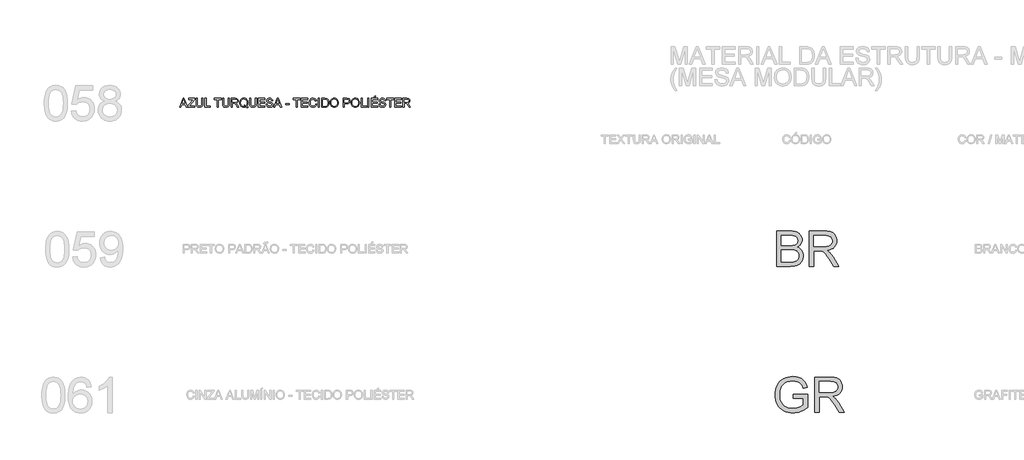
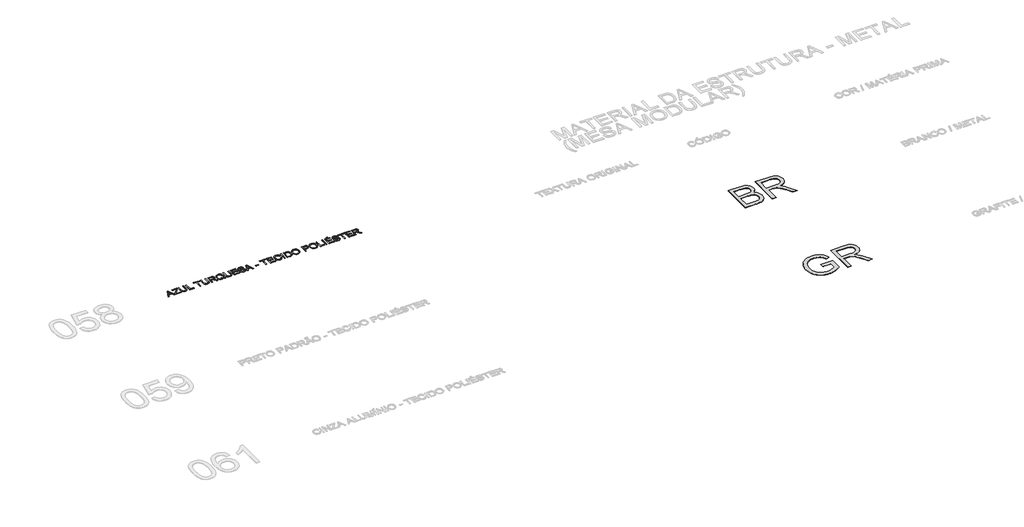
# One storey, part 46 of 67: 3 proxies.
"""IFC4 building model written with IfcOpenShell, lengths in millimetres."""

import ifcopenshell
import ifcopenshell.guid

model = None  # the IFC model being written
_history = None  # IfcOwnerHistory: only IFC2X3 demands one
_inside = {}  # id of a spatial element -> (the spatial element, [elements in it])
_under = {}  # id of a project, library or spatial element -> (it, [spatial elements below it])
_declared = {}  # id of a project -> (the project, [libraries it declares])
_typed = {}  # id of a type object -> (the type object, [elements of that type])
_made_of = {}  # id of a material, layer set ... -> (it, [elements and type objects made of it])


def new_model(schema):
    """Start an empty IFC model of exactly this schema.

    Asked for "IFC4X3", IfcOpenShell would pick the latest addendum, in which some entities
    have other attributes; the version numbers below select the first issue.
    IFC2X3 requires an IfcOwnerHistory on every rooted entity: one is made here for all.
    """
    global model, _history
    if schema == "IFC4X3":
        model = ifcopenshell.file(schema_version=(4, 3, 0, 0))
    else:
        model = ifcopenshell.file(schema=schema)
    _inside.clear()
    _under.clear()
    _declared.clear()
    _typed.clear()
    _made_of.clear()
    _history = None
    if model.schema == "IFC2X3":
        org = make("IfcOrganization", Name="unknown")
        user = make(
            "IfcPersonAndOrganization",
            ThePerson=make("IfcPerson", FamilyName="unknown"),
            TheOrganization=org,
        )
        app = make(
            "IfcApplication",
            ApplicationDeveloper=org,
            Version="unknown",
            ApplicationFullName="unknown",
            ApplicationIdentifier="unknown",
        )
        _history = make(
            "IfcOwnerHistory",
            OwningUser=user,
            OwningApplication=app,
            ChangeAction="ADDED",
            CreationDate=0,
        )
    return model


def make(cls, **values):
    """One entity of the class cls with the attributes given. An attribute that is None is left unset."""
    return model.create_entity(
        cls, **{name: value for name, value in values.items() if value is not None}
    )


def rooted(cls, **values):
    """An entity with a GlobalId (a new one), such as an element, a storey or a relation."""
    return make(cls, GlobalId=ifcopenshell.guid.new(), OwnerHistory=_history, **values)


def si_unit(unit_type, name, prefix=None):
    """IfcSIUnit, for example si_unit("LENGTHUNIT", "METRE", prefix="MILLI")."""
    return make("IfcSIUnit", UnitType=unit_type, Prefix=prefix, Name=name)


def assignment(units):
    """IfcUnitAssignment: the units of a project."""
    return None if units is None else make("IfcUnitAssignment", Units=units)


def point(xyz):
    """IfcCartesianPoint."""
    return None if xyz is None else make("IfcCartesianPoint", Coordinates=xyz)


def direction(xyz):
    """IfcDirection."""
    return None if xyz is None else make("IfcDirection", DirectionRatios=xyz)


def frame(location, z_axis=None, x_axis=None):
    """IfcAxis2Placement3D, a coordinate frame: its origin and axes. An axis left out is left unset."""
    return make(
        "IfcAxis2Placement3D",
        Location=point(location),
        Axis=direction(z_axis),
        RefDirection=direction(x_axis),
    )


def origin():
    """The frame at (0, 0, 0) with its axes left unset."""
    return frame((0.0, 0.0, 0.0))


def origin_with_axes():
    """The frame at (0, 0, 0) with the z axis (0, 0, 1) and the x axis (1, 0, 0) written out."""
    return frame((0.0, 0.0, 0.0), z_axis=(0.0, 0.0, 1.0), x_axis=(1.0, 0.0, 0.0))


def place(relative_to, where):
    """IfcLocalPlacement: puts the frame where relative to a parent placement (None: the world)."""
    return make(
        "IfcLocalPlacement", PlacementRelTo=relative_to, RelativePlacement=where
    )


def context(
    kind, dimensions, precision=None, world=None, true_north=None, identifier=None
):
    """IfcGeometricRepresentationContext, for example the 3D "Model" context."""
    return make(
        "IfcGeometricRepresentationContext",
        ContextIdentifier=identifier,
        ContextType=kind,
        CoordinateSpaceDimension=dimensions,
        Precision=precision,
        WorldCoordinateSystem=world,
        TrueNorth=true_north,
    )


def project(units=None, contexts=None):
    """IfcProject with its units and contexts."""
    return rooted(
        "IfcProject",
        Name="project",
        RepresentationContexts=contexts,
        UnitsInContext=assignment(units),
    )


def spatial(cls, under=None, at=None, **own):
    """A site, building, storey or space (cls), placed at a placement, below another one or the project."""
    s = rooted(cls, ObjectPlacement=at, **own)
    if under is not None:
        _under.setdefault(under.id(), (under, []))[1].append(s)
    return s


def polyline(points):
    """IfcPolyline through the points."""
    return make("IfcPolyline", Points=[point(p) for p in points])


def outline(outer, holes=None, kind="AREA"):
    """IfcArbitraryClosedProfileDef: a profile drawn as a closed curve; with holes, ...WithVoids."""
    if holes is None:
        return make("IfcArbitraryClosedProfileDef", ProfileType=kind, OuterCurve=outer)
    return make(
        "IfcArbitraryProfileDefWithVoids",
        ProfileType=kind,
        OuterCurve=outer,
        InnerCurves=holes,
    )


def extrude(swept, where, along, depth):
    """IfcExtrudedAreaSolid: the profile swept, set in the frame where, extruded along a direction by depth."""
    return make(
        "IfcExtrudedAreaSolid",
        SweptArea=swept,
        Position=where,
        ExtrudedDirection=direction(along),
        Depth=depth,
    )


def shape(context_of_items, identifier, shape_type, items):
    """IfcShapeRepresentation: the items that make up one representation, for example the "Body"."""
    return make(
        "IfcShapeRepresentation",
        ContextOfItems=context_of_items,
        RepresentationIdentifier=identifier,
        RepresentationType=shape_type,
        Items=items,
    )


def made_of(thing, what):
    """Note that an element or type object is made of a material, layer set ...; save() writes the relation."""
    if what is not None:
        _made_of.setdefault(what.id(), (what, []))[1].append(thing)
    return thing


def element(
    cls,
    number,
    at=None,
    inside=None,
    cuts=None,
    type_object=None,
    material=None,
    context=None,
    identifier="Body",
    shape_type=None,
    held_by="IfcProductDefinitionShape",
    body=None,
    shapes=None,
    **own,
):
    """One element of the class cls, such as IfcWall. Its Tag is "e" and its number.

    at: its placement. inside: the storey or other place that contains it. cuts: it is an
    opening in that element (IfcRelVoidsElement). A single representation is given by context,
    identifier, shape_type and body (its items); several are given by shapes. held_by: the class
    of the entity that holds the representations. save() writes the other relations.
    """
    e = rooted(cls, Tag="e%d" % number, ObjectPlacement=at, **own)
    if body is not None:
        shapes = [shape(context, identifier, shape_type, body)]
    if shapes is not None:
        e.Representation = make(held_by, Representations=shapes)
    if inside is not None:
        _inside.setdefault(inside.id(), (inside, []))[1].append(e)
    if cuts is not None:
        rooted(
            "IfcRelVoidsElement", RelatingBuildingElement=cuts, RelatedOpeningElement=e
        )
    if type_object is not None:
        _typed.setdefault(type_object.id(), (type_object, []))[1].append(e)
    return made_of(e, material)


def aggregate(whole, parts):
    """IfcRelAggregates: a whole, such as a stair, and the parts it consists of."""
    return rooted("IfcRelAggregates", RelatingObject=whole, RelatedObjects=parts)


def save(model, path):
    """Write the relations noted so far, then the file.

    IfcRelAggregates (storeys below a building ...), IfcRelContainedInSpatialStructure (elements
    in a storey), IfcRelDefinesByType, IfcRelAssociatesMaterial and IfcRelDeclares: one each for
    every whole, place, type object, material and project.
    """
    for whole, parts in _under.values():
        aggregate(whole, parts)
    for where, things in _inside.values():
        rooted(
            "IfcRelContainedInSpatialStructure",
            RelatedElements=things,
            RelatingStructure=where,
        )
    for kind, things in _typed.values():
        rooted("IfcRelDefinesByType", RelatedObjects=things, RelatingType=kind)
    for what, things in _made_of.values():
        rooted("IfcRelAssociatesMaterial", RelatedObjects=things, RelatingMaterial=what)
    for by, libraries in _declared.values():
        rooted("IfcRelDeclares", RelatingContext=by, RelatedDefinitions=libraries)
    model.write(path)


model = new_model("IFC4")

# Units and contexts
model_context = context("Model", 3, world=origin())
ifc_project = project(units=[si_unit("LENGTHUNIT", "METRE", prefix="MILLI")], contexts=[model_context])

# Site, building, storey
site = spatial("IfcSite", under=ifc_project)
building = spatial("IfcBuilding", under=site)
storey = spatial("IfcBuildingStorey", under=building, Name="Marelli - Linha COLAB - Planta Baixa", Elevation=0.0)

# Proxies
placement = place(None, origin())
element("IfcBuildingElementProxy", 1, Name="1200mm Arial", ObjectType="1200mm Arial", at=placement, inside=storey, context=model_context, shape_type="SweptSolid", body=[
    extrude(outline(polyline([(24875.3752953, -57980.5663201), (24875.3752953, -56775.0905983), (25335.374942, -56775.0905983), (25402.0995389, -56777.3070873), (25461.8895602, -56783.9565544), (25514.7450058, -56795.0389995), (25560.6658759, -56810.5544226), (25600.8201956, -56830.6683707), (25636.3759905, -56855.5463906), (25667.3332604, -56885.1884824), (25693.6920053, -56919.594646), (25714.7440525, -56956.8243039), (25729.7812291, -56994.9368786), (25738.803535, -57033.9323701), (25741.8109703, -57073.8107784), (25739.2817816, -57110.6449631), (25731.6942154, -57146.393896), (25719.0482718, -57181.057577), (25701.3439508, -57214.6360061), (25678.5260701, -57246.0807196), (25650.5394473, -57274.3432539), (25617.3840825, -57299.4236089), (25579.0599756, -57321.3217847), (25624.5393873, -57340.7091659), (25664.4453867, -57365.9090825), (25698.7779739, -57396.9215347), (25727.5371489, -57433.7465224), (25750.2630591, -57475.2620056), (25766.4958522, -57520.3459441), (25776.235528, -57568.998338), (25779.4820866, -57621.2191872), (25777.2655976, -57664.0130603), (25770.6161305, -57705.2802231), (25759.5336854, -57745.0206756), (25744.0182623, -57783.2344179), (25725.2286894, -57818.5326953), (25704.323795, -57849.5267534), (25681.3035791, -57876.2165921), (25656.1680418, -57898.6022115), (25628.3285718, -57917.6033166), (25597.196558, -57934.1396123), (25562.7720003, -57948.2110986), (25525.0548987, -57959.8177755), (25483.4566421, -57968.8952638), (25437.3886193, -57975.3791839), (25331.8432749, -57980.5663201), (24875.3752953, -57980.5663201)]), holes=[polyline([(25026.0597605, -57264.8151103), (25301.2354929, -57264.8151103), (25397.4734228, -57261.5777487), (25461.9263484, -57251.865664), (25492.0282926, -57242.0892), (25518.1755054, -57229.5352269), (25540.3679868, -57214.2037448), (25558.6057367, -57196.0947536), (25572.8335729, -57175.337012), (25582.996313, -57152.0592787), (25589.093957, -57126.2615538), (25591.1265051, -57097.9438372), (25589.2319128, -57070.8309342), (25583.548136, -57045.4102883), (25574.0751746, -57021.6818996), (25560.8130287, -56999.6457681), (25544.0192156, -56980.1204312), (25523.9512528, -56963.9244264), (25500.6091402, -56951.0577536), (25473.9928778, -56941.5204129), (25440.6995572, -56934.6318225), (25397.32627, -56929.7114008), (25280.3397955, -56925.7750635), (25026.0597605, -56925.7750635), (25026.0597605, -57264.8151103)]), polyline([(25026.0597605, -57829.8818548), (25335.0806364, -57829.8818548), (25402.7709235, -57828.4103269), (25446.916763, -57823.9957429), (25498.8249125, -57810.9359321), (25541.5360121, -57791.180669), (25576.2640725, -57762.8905435), (25604.2231041, -57724.2261458), (25614.9744554, -57701.4358562), (25622.6539921, -57676.9165212), (25627.261714, -57650.6681409), (25628.7976214, -57622.6907152), (25626.9949996, -57590.0963704), (25621.5871343, -57559.7093176), (25612.5740254, -57531.5295568), (25599.955673, -57505.5570879), (25583.2998156, -57482.536872), (25562.1741921, -57463.2138703), (25536.5788022, -57447.5880825), (25506.5136462, -57435.6595088), (25470.6543487, -57426.839538), (25427.6765346, -57420.5395588), (25320.3653566, -57415.4995755), (25026.0597605, -57415.4995755), (25026.0597605, -57829.8818548)])]), origin_with_axes(), (0.0, 0.0, 1.0), 10.0),
    extrude(outline(polyline([(25986.6732263, -57980.5663201), (25986.6732263, -56775.0905983), (26506.1226035, -56775.0905983), (26580.6830868, -56777.1231463), (26645.7338206, -56783.2207904), (26701.2748049, -56793.3835305), (26747.3060395, -56807.6113666), (26786.5038661, -56826.9987478), (26821.5446261, -56852.6401229), (26852.4283196, -56884.5354918), (26879.1549466, -56922.6848547), (26900.7220286, -56965.0372694), (26916.1270871, -57009.5417938), (26925.3701222, -57056.1984278), (26928.4511339, -57105.0071715), (26923.3467713, -57166.9217113), (26908.0336832, -57223.7594796), (26882.5118698, -57275.5204763), (26846.781331, -57322.2047015), (26824.9728265, -57343.2705442), (26800.3822144, -57362.3222331), (26742.8546674, -57394.383149), (26674.19869, -57418.3874491), (26594.4142823, -57434.3351336), (26644.0783517, -57466.7823256), (26680.0572108, -57498.7880592), (26741.7878096, -57571.9965762), (26802.1940332, -57653.8871084), (27003.2047554, -57980.5663201), (26828.0929257, -57980.5663201), (26671.2280429, -57730.7008689), (26608.4673745, -57635.3458558), (26557.9203884, -57565.3011239), (26515.7978999, -57517.0717943), (26478.3107246, -57487.1629881), (26442.8101121, -57469.615017), (26406.647312, -57458.4681925), (26371.4042168, -57454.495067), (26319.2385499, -57453.1706918), (26137.3576915, -57453.1706918), (26137.3576915, -57980.5663201), (25986.6732263, -57980.5663201)]), holes=[polyline([(26137.3576915, -57302.4862266), (26474.6319047, -57302.4862266), (26571.495234, -57297.1519376), (26611.7875095, -57290.4840765), (26646.6535256, -57281.1490708), (26676.8750315, -57268.8802063), (26703.2337765, -57253.4107684), (26725.7297605, -57234.7407571), (26744.3629836, -57212.8701725), (26758.9770958, -57188.8750694), (26769.4157474, -57163.8315026), (26775.6789384, -57137.7394721), (26777.7666687, -57110.5989779), (26773.7843461, -57072.0633389), (26761.8373783, -57037.0961552), (26741.9257653, -57005.6974269), (26714.0495071, -56977.867154), (26677.5648103, -56955.0768644), (26631.8278812, -56938.7980861), (26576.83872, -56929.0308192), (26512.5973266, -56925.7750635), (26137.3576915, -56925.7750635), (26137.3576915, -57302.4862266)])]), origin_with_axes(), (0.0, 0.0, 1.0), 10.0),
])
element("IfcBuildingElementProxy", 2, Name="1200mm Arial", ObjectType="1200mm Arial", at=placement, inside=storey, context=model_context, shape_type="SweptSolid", body=[
    extrude(outline(polyline([(25440.4420398, -62509.6773662), (25440.4420398, -62358.992901), (25930.1665518, -62358.992901), (25930.1665518, -62809.5747687), (25871.1306887, -62853.886155), (25811.1567264, -62892.3482176), (25750.244665, -62924.9609565), (25688.3945046, -62951.7243716), (25625.6798215, -62972.5832808), (25562.1741921, -62987.4825016), (25497.8776163, -62996.4220341), (25432.7900943, -62999.4018782), (25346.2366579, -62994.6653975), (25263.7483176, -62980.4559555), (25185.3250732, -62956.773552), (25110.966925, -62923.6181872), (25043.0743028, -62881.4865017), (24984.0476366, -62830.8751362), (24933.8869266, -62771.7840908), (24892.5921726, -62704.2133653), (24860.3381187, -62630.3242666), (24837.2995088, -62552.2781013), (24823.4763428, -62470.0748695), (24818.8686208, -62383.7145711), (24823.4579487, -62297.3450757), (24837.2259324, -62213.9370303), (24860.1725718, -62133.490435), (24892.297867, -62056.0052898), (24933.0316009, -61984.8845031), (24981.8035565, -61923.5309833), (25038.6137336, -61871.9447306), (25103.4621323, -61830.1257448), (25174.9416039, -61797.8073115), (25251.6449999, -61774.7227163), (25333.5723202, -61760.8719592), (25420.7235649, -61756.2550401), (25484.348756, -61758.9313816), (25544.8469501, -61766.9604062), (25602.2181472, -61780.3421138), (25656.4623474, -61799.0765044), (25706.3011607, -61822.5841639), (25750.4561972, -61850.2856781), (25788.9274568, -61882.1810471), (25821.7149396, -61918.2702708), (25849.8671093, -61959.3718867), (25874.4324296, -62006.3044322), (25895.4109003, -62059.0679074), (25912.8025217, -62117.6623122), (25773.8902803, -62156.8049565), (25759.2209857, -62114.6548769), (25742.8778281, -62077.3792337), (25724.8608074, -62044.978027), (25705.1699236, -62017.4512567), (25682.4348163, -61993.6125034), (25655.285125, -61972.2753477), (25623.7208498, -61953.4397895), (25587.7419907, -61937.1058289), (25548.516573, -61923.9080624), (25507.212622, -61914.4810862), (25463.8301377, -61908.8249006), (25418.3691201, -61906.9395053), (25364.4836049, -61908.9720534), (25314.3688801, -61915.0696974), (25268.0249458, -61925.2324376), (25225.4518019, -61939.4602737), (25186.7322219, -61956.9898508), (25151.9489792, -61977.0578136), (25121.1020739, -61999.6641622), (25094.191506, -62024.8088966), (25049.8617256, -62080.2487133), (25016.6419814, -62140.9124543), (24996.0405897, -62196.6465765), (24981.3253099, -62254.6615672), (24972.496142, -62314.9574262), (24969.553086, -62377.5341536), (24973.0939502, -62452.7752186), (24983.7165428, -62521.6335311), (25001.4208639, -62584.1090909), (25026.2069133, -62640.2018981), (25057.7527944, -62689.7004206), (25095.7366104, -62732.3931261), (25140.1583613, -62768.2800148), (25191.0180471, -62797.3610865), (25245.9336319, -62819.8294793), (25302.5230799, -62835.8783314), (25360.7863908, -62845.5076426), (25420.7235649, -62848.717413), (25473.2295227, -62846.2985889), (25525.0916869, -62839.0421165), (25576.3100577, -62826.9479959), (25626.884635, -62810.0162271), (25715.2866784, -62770.0274542), (25750.4102119, -62749.0673776), (25779.4820866, -62727.4635074), (25779.4820866, -62509.6773662), (25440.4420398, -62509.6773662)])), origin_with_axes(), (0.0, 0.0, 1.0), 10.0),
    extrude(outline(polyline([(26175.0288078, -62980.5663201), (26175.0288078, -61775.0905983), (26694.478185, -61775.0905983), (26769.0386684, -61777.1231463), (26834.0894022, -61783.2207904), (26889.6303864, -61793.3835305), (26935.661621, -61807.6113666), (26974.8594476, -61826.9987478), (27009.9002077, -61852.6401229), (27040.7839012, -61884.5354918), (27067.5105281, -61922.6848547), (27089.0776101, -61965.0372694), (27104.4826686, -62009.5417938), (27113.7257038, -62056.1984278), (27116.8067155, -62105.0071715), (27111.7023528, -62166.9217113), (27096.3892647, -62223.7594796), (27070.8674513, -62275.5204763), (27035.1369125, -62322.2047015), (27013.328408, -62343.2705442), (26988.7377959, -62362.3222331), (26931.2102489, -62394.383149), (26862.5542716, -62418.3874491), (26782.7698638, -62434.3351336), (26832.4339332, -62466.7823256), (26868.4127923, -62498.7880592), (26930.1433911, -62571.9965762), (26990.5496147, -62653.8871084), (27191.5603369, -62980.5663201), (27016.4485072, -62980.5663201), (26859.5836244, -62730.7008689), (26796.8229561, -62635.3458558), (26746.2759699, -62565.3011239), (26704.1534815, -62517.0717943), (26666.6663062, -62487.1629881), (26631.1656936, -62469.615017), (26595.0028935, -62458.4681925), (26559.7597984, -62454.495067), (26507.5941315, -62453.1706918), (26325.713273, -62453.1706918), (26325.713273, -62980.5663201), (26175.0288078, -62980.5663201)]), holes=[polyline([(26325.713273, -62302.4862266), (26662.9874862, -62302.4862266), (26759.8508155, -62297.1519376), (26800.1430911, -62290.4840765), (26835.0091072, -62281.1490708), (26865.2306131, -62268.8802063), (26891.589358, -62253.4107684), (26914.085342, -62234.7407571), (26932.7185651, -62212.8701725), (26947.3326773, -62188.8750694), (26957.771329, -62163.8315026), (26964.0345199, -62137.7394721), (26966.1222502, -62110.5989779), (26962.1399276, -62072.0633389), (26950.1929599, -62037.0961552), (26930.2813469, -62005.6974269), (26902.4050887, -61977.867154), (26865.9203918, -61955.0768644), (26820.1834628, -61938.7980861), (26765.1943015, -61929.0308192), (26700.9529081, -61925.7750635), (26325.713273, -61925.7750635), (26325.713273, -62302.4862266)])]), origin_with_axes(), (0.0, 0.0, 1.0), 10.0),
])
element("IfcBuildingElementProxy", 3, Name="300mm Arial", ObjectType="300mm Arial", at=placement, inside=storey, context=model_context, shape_type="SweptSolid", body=[
    extrude(outline(polyline([(4444.3122869, -52530.5663201), (4564.6096993, -52229.1973896), (4596.6890093, -52229.1973896), (4716.9864217, -52530.5663201), (4677.1815898, -52530.5663201), (4642.6742587, -52436.3885293), (4518.5508735, -52436.3885293), (4484.1171188, -52530.5663201), (4444.3122869, -52530.5663201)]), holes=[polyline([(4532.3832365, -52398.717413), (4628.9154721, -52398.717413), (4601.7657808, -52324.6259792), (4580.6493543, -52266.8685059), (4561.8873725, -52318.1512561), (4532.3832365, -52398.717413)])]), origin_with_axes(), (0.0, 0.0, 1.0), 10.0),
    extrude(outline(polyline([(4733.6882643, -52530.5663201), (4733.6882643, -52491.4972522), (4887.8308203, -52302.7737887), (4917.1142271, -52266.8685059), (4752.5238224, -52266.8685059), (4752.5238224, -52229.1973896), (4964.4238517, -52229.1973896), (4964.4238517, -52266.8685059), (4795.7131687, -52473.397458), (4779.8206665, -52492.8952038), (4969.1327412, -52492.8952038), (4969.1327412, -52530.5663201), (4733.6882643, -52530.5663201)])), origin_with_axes(), (0.0, 0.0, 1.0), 10.0),
    extrude(outline(polyline([(5209.2861077, -52229.1973896), (5246.957224, -52229.1973896), (5246.957224, -52403.0584205), (5244.4004441, -52443.7737604), (5236.7301045, -52475.1265034), (5222.4011008, -52499.3147446), (5199.8683286, -52518.5365788), (5169.0766056, -52531.0905519), (5129.9707495, -52535.2752096), (5091.720219, -52531.6331779), (5061.1400282, -52520.7070826), (5038.2209799, -52502.8740029), (5022.9538771, -52478.5110178), (5014.3730296, -52445.8338995), (5011.512747, -52403.0584205), (5011.512747, -52229.1973896), (5049.1838634, -52229.1973896), (5049.1838634, -52401.7340454), (5051.0416674, -52435.588386), (5056.6150797, -52459.1604248), (5066.7134404, -52475.4851883), (5082.1460901, -52487.597703), (5102.2692353, -52495.1024957), (5126.4390823, -52497.6040933), (5164.7539921, -52492.6560805), (5179.0967914, -52486.4710644), (5190.2298203, -52477.812042), (5198.566946, -52465.6351479), (5204.5220358, -52448.8965171), (5209.2861077, -52401.7340454), (5209.2861077, -52229.1973896)])), origin_with_axes(), (0.0, 0.0, 1.0), 10.0),
    extrude(outline(polyline([(5312.8816775, -52530.5663201), (5312.8816775, -52229.1973896), (5350.5527938, -52229.1973896), (5350.5527938, -52492.8952038), (5501.237259, -52492.8952038), (5501.237259, -52530.5663201), (5312.8816775, -52530.5663201)])), origin_with_axes(), (0.0, 0.0, 1.0), 10.0),
    extrude(outline(polyline([(5736.6817359, -52530.5663201), (5736.6817359, -52266.8685059), (5637.7950556, -52266.8685059), (5637.7950556, -52229.1973896), (5873.2395325, -52229.1973896), (5873.2395325, -52266.8685059), (5774.3528522, -52266.8685059), (5774.3528522, -52530.5663201), (5736.6817359, -52530.5663201)])), origin_with_axes(), (0.0, 0.0, 1.0), 10.0),
    extrude(outline(polyline([(6113.392899, -52229.1973896), (6151.0640153, -52229.1973896), (6151.0640153, -52403.0584205), (6148.5072354, -52443.7737604), (6140.8368958, -52475.1265034), (6126.5078921, -52499.3147446), (6103.9751199, -52518.5365788), (6073.1833969, -52531.0905519), (6034.0775408, -52535.2752096), (5995.8270104, -52531.6331779), (5965.2468195, -52520.7070826), (5942.3277712, -52502.8740029), (5927.0606684, -52478.5110178), (5918.4798209, -52445.8338995), (5915.6195384, -52403.0584205), (5915.6195384, -52229.1973896), (5953.2906547, -52229.1973896), (5953.2906547, -52401.7340454), (5955.1484588, -52435.588386), (5960.721871, -52459.1604248), (5970.8202318, -52475.4851883), (5986.2528815, -52487.597703), (6006.3760266, -52495.1024957), (6030.5458737, -52497.6040933), (6068.8607835, -52492.6560805), (6083.2035828, -52486.4710644), (6094.3366117, -52477.812042), (6102.6737374, -52465.6351479), (6108.6288272, -52448.8965171), (6113.392899, -52401.7340454), (6113.392899, -52229.1973896)])), origin_with_axes(), (0.0, 0.0, 1.0), 10.0),
    extrude(outline(polyline([(6216.9884688, -52530.5663201), (6216.9884688, -52229.1973896), (6346.8508131, -52229.1973896), (6381.7536174, -52231.2299376), (6407.1466721, -52237.3275817), (6425.7063188, -52248.5847708), (6440.1088989, -52266.0959537), (6449.351934, -52287.8101885), (6452.4329458, -52311.6765329), (6447.3285831, -52341.3646099), (6432.015495, -52365.9759154), (6420.4157159, -52376.0052983), (6406.0338291, -52384.0205273), (6368.9237329, -52394.0085235), (6390.334465, -52410.1217548), (6420.8686706, -52448.8965171), (6471.1213511, -52530.5663201), (6427.3433937, -52530.5663201), (6388.127173, -52468.0999573), (6359.8002594, -52426.750021), (6339.8978434, -52407.2154871), (6321.9819903, -52400.0417882), (6300.1297998, -52398.717413), (6254.6595851, -52398.717413), (6254.6595851, -52530.5663201), (6216.9884688, -52530.5663201)]), holes=[polyline([(6254.6595851, -52361.0462967), (6338.9781384, -52361.0462967), (6363.1939708, -52359.7127245), (6381.9835437, -52355.7120078), (6396.1286064, -52348.7774322), (6406.4109082, -52338.6422832), (6412.6740991, -52326.3826157), (6414.7618294, -52313.0744845), (6410.7795069, -52294.6987789), (6398.8325391, -52279.8915286), (6378.2771326, -52270.1242616), (6348.4694939, -52266.8685059), (6254.6595851, -52266.8685059), (6254.6595851, -52361.0462967)])]), origin_with_axes(), (0.0, 0.0, 1.0), 10.0),
    extrude(outline(polyline([(6744.7519791, -52494.4403081), (6769.0873731, -52513.036743), (6791.4729925, -52525.8574305), (6781.3194494, -52553.4485802), (6750.251815, -52539.0460001), (6719.2945451, -52518.205485), (6684.437726, -52531.0077785), (6646.086028, -52535.2752096), (6607.550389, -52530.3547879), (6572.7303582, -52515.5935229), (6543.566513, -52491.9203165), (6521.999431, -52460.2640708), (6508.6729058, -52422.3630282), (6504.2307307, -52379.9554312), (6508.6637087, -52337.511046), (6521.9626428, -52299.0581805), (6543.4469514, -52266.9512794), (6572.4360526, -52243.5447874), (6607.1273247, -52229.2525719), (6645.718146, -52224.4885001), (6684.61247, -52229.3629365), (6719.4784861, -52243.9862458), (6748.421602, -52267.3835407), (6769.5472256, -52298.5799339), (6782.4598836, -52335.9199564), (6786.764103, -52377.7481393), (6784.1521408, -52412.5313819), (6776.3162543, -52443.5990164), (6763.2012612, -52470.9142546), (6744.7519791, -52494.4403081)]), holes=[polyline([(6656.4603003, -52444.3347804), (6688.1349401, -52456.3093393), (6713.7027387, -52472.9559996), (6729.1859722, -52455.4816049), (6740.2454247, -52434.1076609), (6746.8810962, -52408.8341679), (6749.0929867, -52379.6611256), (6745.9659897, -52346.5057608), (6736.5849988, -52317.8201623), (6721.1799403, -52294.3308969), (6699.9807403, -52276.7645316), (6674.4221387, -52265.8108452), (6645.9388752, -52262.1596164), (6624.4545667, -52264.0059242), (6604.8832446, -52269.5448474), (6587.2249088, -52278.7763863), (6571.4795594, -52291.7005406), (6558.5393102, -52308.2897193), (6549.2962751, -52328.5163313), (6543.750454, -52352.3803764), (6541.901847, -52379.8818548), (6543.7297606, -52406.6659634), (6549.2135016, -52430.1437324), (6558.35307, -52450.3151621), (6571.1484656, -52467.1802523), (6586.7857497, -52480.4906827), (6604.4509832, -52489.9981331), (6624.1441663, -52495.7026032), (6645.8652988, -52497.6040933), (6666.7793902, -52495.6727128), (6686.4058947, -52489.8785714), (6667.110484, -52479.853787), (6646.7482156, -52473.1767288), (6656.4603003, -52444.3347804)])]), origin_with_axes(), (0.0, 0.0, 1.0), 10.0),
    extrude(outline(polyline([(7041.044138, -52229.1973896), (7078.7152543, -52229.1973896), (7078.7152543, -52403.0584205), (7076.1584745, -52443.7737604), (7068.4881349, -52475.1265034), (7054.1591312, -52499.3147446), (7031.626359, -52518.5365788), (7000.834636, -52531.0905519), (6961.7287799, -52535.2752096), (6923.4782494, -52531.6331779), (6892.8980586, -52520.7070826), (6869.9790103, -52502.8740029), (6854.7119075, -52478.5110178), (6846.1310599, -52445.8338995), (6843.2707774, -52403.0584205), (6843.2707774, -52229.1973896), (6880.9418937, -52229.1973896), (6880.9418937, -52401.7340454), (6882.7996978, -52435.588386), (6888.37311, -52459.1604248), (6898.4714708, -52475.4851883), (6913.9041205, -52487.597703), (6934.0272656, -52495.1024957), (6958.1971127, -52497.6040933), (6996.5120225, -52492.6560805), (7010.8548218, -52486.4710644), (7021.9878507, -52477.812042), (7030.3249764, -52465.6351479), (7036.2800662, -52448.8965171), (7041.044138, -52401.7340454), (7041.044138, -52229.1973896)])), origin_with_axes(), (0.0, 0.0, 1.0), 10.0),
    extrude(outline(polyline([(7144.6397079, -52530.5663201), (7144.6397079, -52229.1973896), (7361.2486266, -52229.1973896), (7361.2486266, -52266.8685059), (7182.3108242, -52266.8685059), (7182.3108242, -52356.3374072), (7351.8308476, -52356.3374072), (7351.8308476, -52394.0085235), (7182.3108242, -52394.0085235), (7182.3108242, -52492.8952038), (7365.9575162, -52492.8952038), (7365.9575162, -52530.5663201), (7144.6397079, -52530.5663201)])), origin_with_axes(), (0.0, 0.0, 1.0), 10.0),
    extrude(outline(polyline([(7408.337522, -52426.9707502), (7446.0086383, -52426.9707502), (7450.3312518, -52447.8756446), (7458.1487442, -52464.6786547), (7470.3440323, -52478.0143771), (7487.800033, -52488.517408), (7509.1371887, -52495.332422), (7532.975942, -52497.6040933), (7553.9636098, -52495.884245), (7572.3393155, -52490.7247), (7587.2293392, -52482.5577197), (7597.7599613, -52471.8155654), (7604.0231523, -52459.4823216), (7606.1108826, -52446.5420724), (7604.5473842, -52433.932917), (7599.8568887, -52423.0344129), (7590.328745, -52413.7361954), (7574.2523018, -52405.9279001), (7519.4010964, -52391.5437141), (7483.3946461, -52382.0247675), (7460.3560361, -52372.9656733), (7441.6032514, -52360.2921386), (7428.3135144, -52344.9330653), (7420.3948544, -52327.2195472), (7417.7553011, -52307.4826782), (7421.0202538, -52285.4189555), (7430.8151119, -52264.845155), (7446.8823581, -52247.4075484), (7468.9644748, -52234.7524077), (7495.4703726, -52227.054477), (7524.8089617, -52224.4885001), (7556.5939661, -52227.1740386), (7584.4058449, -52235.2306543), (7607.2513168, -52248.4928003), (7624.1371004, -52266.7949295), (7634.8240724, -52288.9966079), (7639.0731094, -52313.9574013), (7601.4019931, -52313.9574013), (7594.4858116, -52291.4798114), (7580.0648374, -52275.2562154), (7557.5320652, -52265.4337661), (7526.2804897, -52262.1596164), (7494.2931502, -52265.3969779), (7472.3489892, -52275.1090626), (7459.6570604, -52289.4012781), (7455.4264174, -52306.3790322), (7458.4246557, -52320.8551887), (7467.4193704, -52332.4986539), (7488.6829498, -52342.9097143), (7528.92924, -52353.541504), (7570.4631173, -52363.6398648), (7595.5894576, -52372.4506385), (7617.064569, -52386.1174547), (7632.0465633, -52402.9848441), (7640.84814, -52422.868866), (7643.7819989, -52445.5855792), (7640.4066816, -52468.8081301), (7630.2807297, -52490.6511236), (7613.8180104, -52509.4498935), (7591.432391, -52523.539774), (7564.512626, -52532.3413507), (7534.44747, -52535.2752096), (7497.5397088, -52532.1114244), (7467.1618531, -52522.620069), (7442.9644148, -52506.764355), (7424.5979062, -52484.5074943), (7412.8072883, -52457.3945912), (7408.337522, -52426.9707502)])), origin_with_axes(), (0.0, 0.0, 1.0), 10.0),
    extrude(outline(polyline([(7665.1927311, -52530.5663201), (7785.4901435, -52229.1973896), (7817.5694535, -52229.1973896), (7937.8668659, -52530.5663201), (7898.062034, -52530.5663201), (7863.5547029, -52436.3885293), (7739.4313177, -52436.3885293), (7704.9975629, -52530.5663201), (7665.1927311, -52530.5663201)]), holes=[polyline([(7753.2636807, -52398.717413), (7849.7959162, -52398.717413), (7822.646225, -52324.6259792), (7801.5297985, -52266.8685059), (7782.7678167, -52318.1512561), (7753.2636807, -52398.717413)])]), origin_with_axes(), (0.0, 0.0, 1.0), 10.0),
    extrude(outline(polyline([(8072.2909469, -52441.0974188), (8072.2909469, -52403.4263025), (8190.0131854, -52403.4263025), (8190.0131854, -52441.0974188), (8072.2909469, -52441.0974188)])), origin_with_axes(), (0.0, 0.0, 1.0), 10.0),
    extrude(outline(polyline([(8430.1665518, -52530.5663201), (8430.1665518, -52266.8685059), (8331.2798715, -52266.8685059), (8331.2798715, -52229.1973896), (8566.7243484, -52229.1973896), (8566.7243484, -52266.8685059), (8467.8376681, -52266.8685059), (8467.8376681, -52530.5663201), (8430.1665518, -52530.5663201)])), origin_with_axes(), (0.0, 0.0, 1.0), 10.0),
    extrude(outline(polyline([(8609.1043543, -52530.5663201), (8609.1043543, -52229.1973896), (8825.713273, -52229.1973896), (8825.713273, -52266.8685059), (8646.7754706, -52266.8685059), (8646.7754706, -52356.3374072), (8816.295494, -52356.3374072), (8816.295494, -52394.0085235), (8646.7754706, -52394.0085235), (8646.7754706, -52492.8952038), (8830.4221626, -52492.8952038), (8830.4221626, -52530.5663201), (8609.1043543, -52530.5663201)])), origin_with_axes(), (0.0, 0.0, 1.0), 10.0),
    extrude(outline(polyline([(9098.8288663, -52423.4390831), (9136.4999826, -52433.1511677), (9129.0457736, -52456.5783531), (9119.1175583, -52477.0486868), (9106.7153365, -52494.5621691), (9091.8391084, -52509.1187997), (9074.8245661, -52520.5622291), (9056.007402, -52528.7361071), (9035.3876162, -52533.640434), (9012.9652086, -52535.2752096), (8969.2700246, -52530.3271968), (8934.5695554, -52515.4831583), (8907.9716872, -52491.2581289), (8888.584306, -52458.1671434), (8876.7477028, -52419.2636224), (8872.8021684, -52377.6009865), (8877.2627376, -52333.6574821), (8890.6444452, -52295.7104543), (8912.2483154, -52264.9647166), (8941.3753723, -52242.6250824), (8975.9194917, -52229.0226457), (9013.774549, -52224.4885001), (9055.0785, -52230.3562179), (9073.0472362, -52237.6908652), (9089.2271462, -52247.9593714), (9103.3515155, -52260.8904235), (9115.1536298, -52276.2127086), (9131.791093, -52314.0309777), (9094.1199767, -52323.0072984), (9081.0601659, -52295.5357104), (9063.2178891, -52276.6909552), (9040.3724172, -52265.7924511), (9012.303021, -52262.1596164), (8979.9477995, -52266.1879242), (8953.3683254, -52278.2728478), (8933.199195, -52297.1451941), (8920.0750048, -52321.5357704), (8912.8737147, -52349.1085259), (8910.4732847, -52377.5274101), (8913.3151731, -52412.3290468), (8921.8408384, -52442.421794), (8936.3721772, -52466.6560205), (8957.2310863, -52483.8820949), (8982.2378649, -52494.1735937), (9009.2128122, -52497.6040933), (9040.6575258, -52492.931992), (9066.8599209, -52478.9156879), (9086.6427752, -52455.702334), (9098.8288663, -52423.4390831)])), origin_with_axes(), (0.0, 0.0, 1.0), 10.0),
    extrude(outline(polyline([(9193.006657, -52530.5663201), (9193.006657, -52229.1973896), (9230.6777733, -52229.1973896), (9230.6777733, -52530.5663201), (9193.006657, -52530.5663201)])), origin_with_axes(), (0.0, 0.0, 1.0), 10.0),
    extrude(outline(polyline([(9306.0200059, -52530.5663201), (9306.0200059, -52229.1973896), (9409.9834578, -52229.1973896), (9463.7678055, -52233.5383972), (9487.7904998, -52241.9077126), (9508.0607977, -52255.0962821), (9528.9013127, -52278.0521186), (9543.7453512, -52306.5997614), (9552.6297014, -52340.1873876), (9555.5911515, -52378.2631741), (9553.5861946, -52410.6091985), (9547.571324, -52439.0740679), (9538.4110623, -52463.3082943), (9526.9699322, -52482.9623899), (9513.7997568, -52498.477813), (9499.452359, -52510.2960221), (9482.9804427, -52519.0608107), (9463.4367117, -52525.4159721), (9414.9866529, -52530.5663201), (9306.0200059, -52530.5663201)]), holes=[polyline([(9343.6911222, -52492.8952038), (9410.3513398, -52492.8952038), (9437.9240953, -52491.5340404), (9458.8381867, -52487.4505502), (9474.6203243, -52480.8838566), (9486.7972184, -52472.0730828), (9499.8846204, -52455.7667134), (9509.7162667, -52434.6594839), (9515.869093, -52408.6594239), (9517.9200352, -52377.6745629), (9513.9009244, -52336.6189322), (9501.843592, -52306.3054558), (9484.0289064, -52285.4833349), (9462.7377359, -52272.9017706), (9441.0694864, -52268.3768221), (9409.3212702, -52266.8685059), (9343.6911222, -52266.8685059), (9343.6911222, -52492.8952038)])]), origin_with_axes(), (0.0, 0.0, 1.0), 10.0),
    extrude(outline(polyline([(9593.2622678, -52383.8549804), (9595.7730624, -52348.5061192), (9603.3054462, -52317.213157), (9615.8594193, -52289.9760937), (9633.4349817, -52266.7949295), (9654.979071, -52248.2858666), (9679.4386251, -52235.0651074), (9706.8136441, -52227.1326519), (9737.1041279, -52224.4885001), (9776.6330483, -52229.454907), (9812.0784785, -52244.3541278), (9841.5090381, -52268.1376988), (9862.9933466, -52299.7571563), (9876.1267339, -52337.68579), (9880.5045296, -52380.3968896), (9875.8968076, -52423.6782064), (9862.0736417, -52462.140269), (9839.7983868, -52493.8149087), (9809.8343983, -52516.733957), (9774.6924707, -52530.6398965), (9736.8833987, -52535.2752096), (9696.747473, -52530.1524528), (9661.0997077, -52514.7841825), (9631.7427245, -52490.5591531), (9610.4791452, -52458.8661192), (9597.5664871, -52422.3998164), (9593.2622678, -52383.8549804)]), holes=[polyline([(9630.9333841, -52384.2228624), (9632.81648, -52409.1974513), (9638.4657679, -52431.3669401), (9647.8812477, -52450.7313286), (9661.0629195, -52467.2906169), (9677.0864796, -52480.5527628), (9695.0276247, -52490.0257242), (9714.8863546, -52495.709501), (9736.6626695, -52497.6040933), (9758.8114649, -52495.6911069), (9778.9047196, -52489.9521478), (9796.9424337, -52480.3872159), (9812.9246071, -52466.9963113), (9826.0097098, -52450.0875351), (9835.3562118, -52429.9689885), (9840.9641129, -52406.6406715), (9842.8334133, -52380.102584), (9839.6328399, -52346.7540812), (9830.0311199, -52317.9305269), (9814.2765734, -52294.358488), (9792.617521, -52276.7645316), (9766.4887023, -52265.8108452), (9737.3248571, -52262.1596164), (9716.3049996, -52263.9185522), (9696.8026553, -52269.1953595), (9678.8178243, -52277.9900385), (9662.3505065, -52290.302589), (9648.6055154, -52306.7262208), (9638.7876647, -52327.8541437), (9632.8969542, -52353.6863575), (9630.9333841, -52384.2228624)])]), origin_with_axes(), (0.0, 0.0, 1.0), 10.0),
    extrude(outline(polyline([(10050.024553, -52530.5663201), (10050.024553, -52229.1973896), (10161.7135267, -52229.1973896), (10206.7422829, -52232.0668692), (10226.8194428, -52237.4287493), (10243.3465415, -52246.1567496), (10256.6546726, -52258.6463433), (10267.0749301, -52275.2930036), (10273.8071707, -52294.9287051), (10276.0512508, -52316.3854225), (10274.5360369, -52334.8852883), (10269.990395, -52351.9044291), (10262.4143251, -52367.4428449), (10251.8078273, -52381.5005356), (10237.2465981, -52393.1531978), (10217.8063339, -52401.476528), (10193.4870348, -52406.470526), (10164.2887007, -52408.1351921), (10087.6956693, -52408.1351921), (10087.6956693, -52530.5663201), (10050.024553, -52530.5663201)]), holes=[polyline([(10087.6956693, -52370.4640758), (10166.4959927, -52370.4640758), (10199.8996778, -52367.005985), (10221.9725975, -52356.6317127), (10234.2782503, -52339.9850525), (10238.3801345, -52317.7097977), (10235.9613104, -52300.7872259), (10228.704838, -52286.5134045), (10217.5120283, -52275.7712502), (10203.2841922, -52269.4436799), (10165.6130759, -52266.8685059), (10087.6956693, -52266.8685059), (10087.6956693, -52370.4640758)])]), origin_with_axes(), (0.0, 0.0, 1.0), 10.0),
    extrude(outline(polyline([(10313.7223671, -52383.8549804), (10316.2331617, -52348.5061192), (10323.7655456, -52317.213157), (10336.3195187, -52289.9760937), (10353.895081, -52266.7949295), (10375.4391703, -52248.2858666), (10399.8987245, -52235.0651074), (10427.2737435, -52227.1326519), (10457.5642272, -52224.4885001), (10497.0931476, -52229.454907), (10532.5385779, -52244.3541278), (10561.9691375, -52268.1376988), (10583.453446, -52299.7571563), (10596.5868332, -52337.68579), (10600.964629, -52380.3968896), (10596.356907, -52423.6782064), (10582.533741, -52462.140269), (10560.2584862, -52493.8149087), (10530.2944977, -52516.733957), (10495.1525701, -52530.6398965), (10457.343498, -52535.2752096), (10417.2075724, -52530.1524528), (10381.559807, -52514.7841825), (10352.2028238, -52490.5591531), (10330.9392445, -52458.8661192), (10318.0265865, -52422.3998164), (10313.7223671, -52383.8549804)]), holes=[polyline([(10351.3934834, -52384.2228624), (10353.2765794, -52409.1974513), (10358.9258673, -52431.3669401), (10368.3413471, -52450.7313286), (10381.5230188, -52467.2906169), (10397.546579, -52480.5527628), (10415.487724, -52490.0257242), (10435.346454, -52495.709501), (10457.1227689, -52497.6040933), (10479.2715642, -52495.6911069), (10499.3648189, -52489.9521478), (10517.402533, -52480.3872159), (10533.3847065, -52466.9963113), (10546.4698092, -52450.0875351), (10555.8163111, -52429.9689885), (10561.4242123, -52406.6406715), (10563.2935127, -52380.102584), (10560.0929393, -52346.7540812), (10550.4912192, -52317.9305269), (10534.7366728, -52294.358488), (10513.0776203, -52276.7645316), (10486.9488016, -52265.8108452), (10457.7849564, -52262.1596164), (10436.7650989, -52263.9185522), (10417.2627547, -52269.1953595), (10399.2779236, -52277.9900385), (10382.8106058, -52290.302589), (10369.0656148, -52306.7262208), (10359.247764, -52327.8541437), (10353.3570536, -52353.6863575), (10351.3934834, -52384.2228624)])]), origin_with_axes(), (0.0, 0.0, 1.0), 10.0),
    extrude(outline(polyline([(10652.7624139, -52530.5663201), (10652.7624139, -52229.1973896), (10690.4335302, -52229.1973896), (10690.4335302, -52492.8952038), (10841.1179954, -52492.8952038), (10841.1179954, -52530.5663201), (10652.7624139, -52530.5663201)])), origin_with_axes(), (0.0, 0.0, 1.0), 10.0),
    extrude(outline(polyline([(10888.2068908, -52530.5663201), (10888.2068908, -52229.1973896), (10925.8780071, -52229.1973896), (10925.8780071, -52530.5663201), (10888.2068908, -52530.5663201)])), origin_with_axes(), (0.0, 0.0, 1.0), 10.0),
    extrude(outline(polyline([(11001.2202397, -52530.5663201), (11001.2202397, -52229.1973896), (11217.8291585, -52229.1973896), (11217.8291585, -52266.8685059), (11038.891356, -52266.8685059), (11038.891356, -52356.3374072), (11208.4113794, -52356.3374072), (11208.4113794, -52394.0085235), (11038.891356, -52394.0085235), (11038.891356, -52492.8952038), (11222.538048, -52492.8952038), (11222.538048, -52530.5663201), (11001.2202397, -52530.5663201)])), origin_with_axes(), (0.0, 0.0, 1.0), 10.0),
    extrude(outline(polyline([(11085.9802514, -52210.3618315), (11114.2335886, -52153.855157), (11161.322484, -52153.855157), (11114.2335886, -52210.3618315), (11085.9802514, -52210.3618315)])), origin_with_axes(), (0.0, 0.0, 1.0), 10.0),
    extrude(outline(polyline([(11264.9180539, -52426.9707502), (11302.5891702, -52426.9707502), (11306.9117836, -52447.8756446), (11314.729276, -52464.6786547), (11326.9245641, -52478.0143771), (11344.3805648, -52488.517408), (11365.7177205, -52495.332422), (11389.5564738, -52497.6040933), (11410.5441417, -52495.884245), (11428.9198473, -52490.7247), (11443.8098711, -52482.5577197), (11454.3404932, -52471.8155654), (11460.6036841, -52459.4823216), (11462.6914145, -52446.5420724), (11461.127916, -52433.932917), (11456.4374205, -52423.0344129), (11446.9092769, -52413.7361954), (11430.8328337, -52405.9279001), (11375.9816282, -52391.5437141), (11339.9751779, -52382.0247675), (11316.936568, -52372.9656733), (11298.1837833, -52360.2921386), (11284.8940462, -52344.9330653), (11276.9753863, -52327.2195472), (11274.3358329, -52307.4826782), (11277.6007856, -52285.4189555), (11287.3956438, -52264.845155), (11303.4628899, -52247.4075484), (11325.5450067, -52234.7524077), (11352.0509044, -52227.054477), (11381.3894935, -52224.4885001), (11413.1744979, -52227.1740386), (11440.9863768, -52235.2306543), (11463.8318487, -52248.4928003), (11480.7176322, -52266.7949295), (11491.4046042, -52288.9966079), (11495.6536412, -52313.9574013), (11457.9825249, -52313.9574013), (11451.0663434, -52291.4798114), (11436.6453692, -52275.2562154), (11414.112597, -52265.4337661), (11382.8610215, -52262.1596164), (11350.873682, -52265.3969779), (11328.929521, -52275.1090626), (11316.2375922, -52289.4012781), (11312.0069492, -52306.3790322), (11315.0051875, -52320.8551887), (11323.9999023, -52332.4986539), (11345.2634816, -52342.9097143), (11385.5097719, -52353.541504), (11427.0436491, -52363.6398648), (11452.1699894, -52372.4506385), (11473.6451009, -52386.1174547), (11488.6270951, -52402.9848441), (11497.4286719, -52422.868866), (11500.3625308, -52445.5855792), (11496.9872135, -52468.8081301), (11486.8612616, -52490.6511236), (11470.3985423, -52509.4498935), (11448.0129229, -52523.539774), (11421.0931579, -52532.3413507), (11391.0280018, -52535.2752096), (11354.1202406, -52532.1114244), (11323.7423849, -52522.620069), (11299.5449467, -52506.764355), (11281.178438, -52484.5074943), (11269.3878201, -52457.3945912), (11264.9180539, -52426.9707502)])), origin_with_axes(), (0.0, 0.0, 1.0), 10.0),
    extrude(outline(polyline([(11632.2114378, -52530.5663201), (11632.2114378, -52266.8685059), (11533.3247575, -52266.8685059), (11533.3247575, -52229.1973896), (11768.7692345, -52229.1973896), (11768.7692345, -52266.8685059), (11669.8825542, -52266.8685059), (11669.8825542, -52530.5663201), (11632.2114378, -52530.5663201)])), origin_with_axes(), (0.0, 0.0, 1.0), 10.0),
    extrude(outline(polyline([(11811.1492403, -52530.5663201), (11811.1492403, -52229.1973896), (12027.7581591, -52229.1973896), (12027.7581591, -52266.8685059), (11848.8203566, -52266.8685059), (11848.8203566, -52356.3374072), (12018.34038, -52356.3374072), (12018.34038, -52394.0085235), (11848.8203566, -52394.0085235), (11848.8203566, -52492.8952038), (12032.4670486, -52492.8952038), (12032.4670486, -52530.5663201), (11811.1492403, -52530.5663201)])), origin_with_axes(), (0.0, 0.0, 1.0), 10.0),
    extrude(outline(polyline([(12088.9737231, -52530.5663201), (12088.9737231, -52229.1973896), (12218.8360674, -52229.1973896), (12253.7388716, -52231.2299376), (12279.1319264, -52237.3275817), (12297.691573, -52248.5847708), (12312.0941531, -52266.0959537), (12321.3371883, -52287.8101885), (12324.4182, -52311.6765329), (12319.3138373, -52341.3646099), (12304.0007492, -52365.9759154), (12292.4009701, -52376.0052983), (12278.0190833, -52384.0205273), (12240.9089871, -52394.0085235), (12262.3197192, -52410.1217548), (12292.8539248, -52448.8965171), (12343.1066053, -52530.5663201), (12299.3286479, -52530.5663201), (12260.1124272, -52468.0999573), (12231.7855136, -52426.750021), (12211.8830976, -52407.2154871), (12193.9672445, -52400.0417882), (12172.115054, -52398.717413), (12126.6448394, -52398.717413), (12126.6448394, -52530.5663201), (12088.9737231, -52530.5663201)]), holes=[polyline([(12126.6448394, -52361.0462967), (12210.9633927, -52361.0462967), (12235.179225, -52359.7127245), (12253.9687979, -52355.7120078), (12268.1138606, -52348.7774322), (12278.3961624, -52338.6422832), (12284.6593533, -52326.3826157), (12286.7470837, -52313.0744845), (12282.7647611, -52294.6987789), (12270.8177933, -52279.8915286), (12250.2623868, -52270.1242616), (12220.4547481, -52266.8685059), (12126.6448394, -52266.8685059), (12126.6448394, -52361.0462967)])]), origin_with_axes(), (0.0, 0.0, 1.0), 10.0),
])

save(model, "model.ifc")
